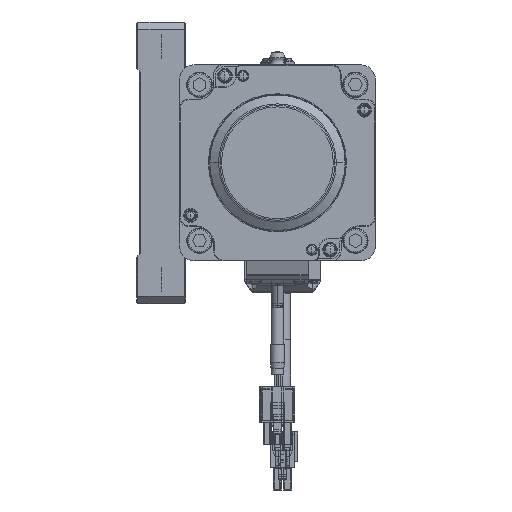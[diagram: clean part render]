
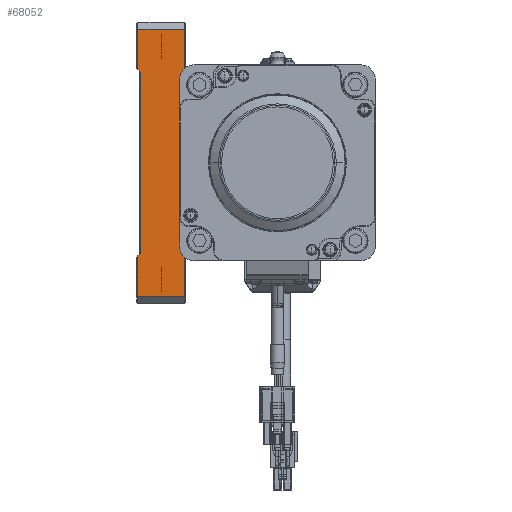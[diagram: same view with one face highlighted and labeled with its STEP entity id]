
A CAD part, front view. The second image highlights one B-rep face of the part: STEP entity #68052.
In plain terms, the highlighted planar face has unit normal (0, -1, 0) as drawn and (0, 0, -1) by its records, which use the part's own axes.
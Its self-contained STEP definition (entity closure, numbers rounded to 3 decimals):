
#66409=DIRECTION('',(-0.707,-0.707,0.));
#66410=VECTOR('',#66409,1.414);
#66411=CARTESIAN_POINT('',(-37.,-8.5,-15.));
#66412=LINE('',#66411,#66410);
#66671=DIRECTION('',(-1.,0.,0.));
#66672=VECTOR('',#66671,74.);
#66673=CARTESIAN_POINT('',(37.,-8.5,-15.));
#66674=LINE('',#66673,#66672);
#66675=DIRECTION('',(1.,0.,0.));
#66676=VECTOR('',#66675,16.5);
#66677=CARTESIAN_POINT('',(38.,-9.5,-15.));
#66678=LINE('',#66677,#66676);
#66679=DIRECTION('',(0.,-1.,0.));
#66680=VECTOR('',#66679,19.);
#66681=CARTESIAN_POINT('',(54.5,9.5,-15.));
#66682=LINE('',#66681,#66680);
#66683=DIRECTION('',(-1.,0.,0.));
#66684=VECTOR('',#66683,109.);
#66685=CARTESIAN_POINT('',(54.5,9.5,-15.));
#66686=LINE('',#66685,#66684);
#66687=DIRECTION('',(0.,-1.,0.));
#66688=VECTOR('',#66687,19.);
#66689=CARTESIAN_POINT('',(-54.5,9.5,-15.));
#66690=LINE('',#66689,#66688);
#66691=DIRECTION('',(1.,0.,0.));
#66692=VECTOR('',#66691,16.5);
#66693=CARTESIAN_POINT('',(-54.5,-9.5,-15.));
#66694=LINE('',#66693,#66692);
#66703=DIRECTION('',(-0.707,0.707,0.));
#66704=VECTOR('',#66703,1.414);
#66705=CARTESIAN_POINT('',(38.,-9.5,-15.));
#66706=LINE('',#66705,#66704);
#67379=CARTESIAN_POINT('',(54.5,9.5,-15.));
#67380=VERTEX_POINT('',#67379);
#67383=CARTESIAN_POINT('',(-54.5,9.5,-15.));
#67384=VERTEX_POINT('',#67383);
#67417=CARTESIAN_POINT('',(54.5,-9.5,-15.));
#67418=VERTEX_POINT('',#67417);
#67420=CARTESIAN_POINT('',(-54.5,-9.5,-15.));
#67422=VERTEX_POINT('',#67420);
#67442=CARTESIAN_POINT('',(38.,-9.5,-15.));
#67444=VERTEX_POINT('',#67442);
#67447=CARTESIAN_POINT('',(-38.,-9.5,-15.));
#67448=VERTEX_POINT('',#67447);
#67463=CARTESIAN_POINT('',(37.,-8.5,-15.));
#67464=CARTESIAN_POINT('',(-37.,-8.5,-15.));
#67465=VERTEX_POINT('',#67463);
#67466=VERTEX_POINT('',#67464);
#68032=CARTESIAN_POINT('',(57.5,-10.,-15.));
#68033=DIRECTION('',(0.,0.,-1.));
#68034=DIRECTION('',(-1.,0.,0.));
#68035=AXIS2_PLACEMENT_3D('',#68032,#68033,#68034);
#68036=PLANE('',#68035);
#68038=ORIENTED_EDGE('',*,*,#68037,.F.);
#68040=ORIENTED_EDGE('',*,*,#68039,.F.);
#68042=ORIENTED_EDGE('',*,*,#68041,.T.);
#68043=ORIENTED_EDGE('',*,*,#67998,.F.);
#68044=ORIENTED_EDGE('',*,*,#68024,.T.);
#68046=ORIENTED_EDGE('',*,*,#68045,.T.);
#68048=ORIENTED_EDGE('',*,*,#68047,.T.);
#68049=ORIENTED_EDGE('',*,*,#67720,.F.);
#68050=EDGE_LOOP('',(#68038,#68040,#68042,#68043,#68044,#68046,#68048,#68049));
#68051=FACE_OUTER_BOUND('',#68050,.F.);
#68052=ADVANCED_FACE('',(#68051),#68036,.T.);
#67720=EDGE_CURVE('',#67466,#67448,#66412,.T.);
#67998=EDGE_CURVE('',#67380,#67418,#66682,.T.);
#68024=EDGE_CURVE('',#67380,#67384,#66686,.T.);
#68037=EDGE_CURVE('',#67465,#67466,#66674,.T.);
#68039=EDGE_CURVE('',#67444,#67465,#66706,.T.);
#68041=EDGE_CURVE('',#67444,#67418,#66678,.T.);
#68045=EDGE_CURVE('',#67384,#67422,#66690,.T.);
#68047=EDGE_CURVE('',#67422,#67448,#66694,.T.);
